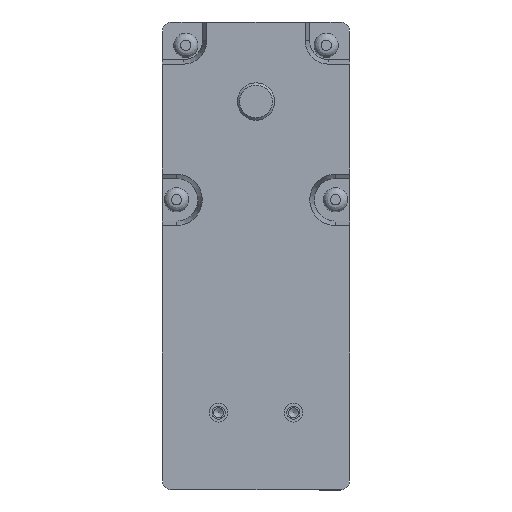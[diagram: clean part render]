
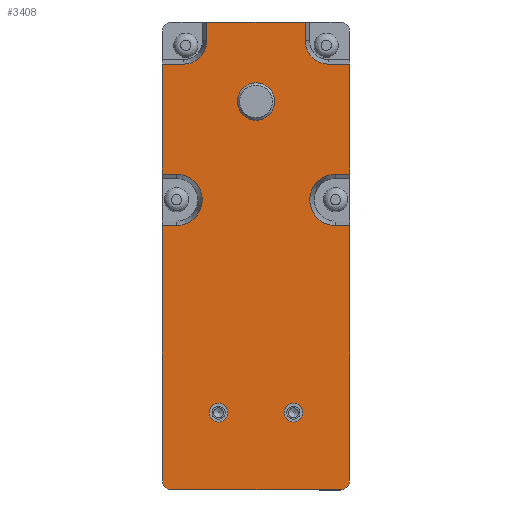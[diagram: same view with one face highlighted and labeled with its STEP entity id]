
A CAD part, top view. The second image highlights one B-rep face of the part: STEP entity #3408.
In plain terms, the highlighted planar face has unit normal (0, 0, 1) as drawn and (0, 1, 0) by its records, which use the part's own axes.
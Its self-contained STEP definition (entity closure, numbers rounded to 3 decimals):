
#73=FACE_BOUND('',#654,.T.);
#74=FACE_BOUND('',#655,.T.);
#75=FACE_BOUND('',#656,.T.);
#152=PLANE('',#3818);
#413=FACE_OUTER_BOUND('',#653,.T.);
#653=EDGE_LOOP('',(#2733,#2734,#2735,#2736,#2737,#2738,#2739,#2740,#2741,
#2742,#2743,#2744,#2745,#2746,#2747,#2748,#2749,#2750,#2751,#2752));
#654=EDGE_LOOP('',(#2753));
#655=EDGE_LOOP('',(#2754));
#656=EDGE_LOOP('',(#2755));
#836=LINE('',#5230,#1120);
#840=LINE('',#5237,#1124);
#848=LINE('',#5258,#1132);
#855=LINE('',#5277,#1139);
#856=LINE('',#5279,#1140);
#860=LINE('',#5289,#1144);
#862=LINE('',#5297,#1146);
#870=LINE('',#5389,#1154);
#871=LINE('',#5392,#1155);
#876=LINE('',#5404,#1160);
#881=LINE('',#5417,#1165);
#901=LINE('',#5578,#1185);
#902=LINE('',#5579,#1186);
#906=LINE('',#5609,#1190);
#1120=VECTOR('',#4161,10.);
#1124=VECTOR('',#4165,10.);
#1132=VECTOR('',#4185,10.);
#1139=VECTOR('',#4204,10.);
#1140=VECTOR('',#4207,10.);
#1144=VECTOR('',#4217,10.);
#1146=VECTOR('',#4227,10.);
#1154=VECTOR('',#4269,10.);
#1155=VECTOR('',#4272,10.);
#1160=VECTOR('',#4283,10.);
#1165=VECTOR('',#4296,10.);
#1185=VECTOR('',#4418,10.);
#1186=VECTOR('',#4419,10.);
#1190=VECTOR('',#4455,10.);
#1396=CIRCLE('',#3674,2.);
#1400=CIRCLE('',#3686,5.5);
#1403=CIRCLE('',#3694,5.);
#1414=CIRCLE('',#3711,5.5);
#1417=CIRCLE('',#3719,5.);
#1431=CIRCLE('',#3743,4.);
#1439=CIRCLE('',#3757,2.);
#1443=CIRCLE('',#3764,2.);
#1455=CIRCLE('',#3790,2.);
#1591=VERTEX_POINT('',#5213);
#1592=VERTEX_POINT('',#5215);
#1596=VERTEX_POINT('',#5227);
#1597=VERTEX_POINT('',#5229);
#1600=VERTEX_POINT('',#5235);
#1606=VERTEX_POINT('',#5255);
#1607=VERTEX_POINT('',#5257);
#1611=VERTEX_POINT('',#5268);
#1612=VERTEX_POINT('',#5270);
#1615=VERTEX_POINT('',#5285);
#1617=VERTEX_POINT('',#5291);
#1627=VERTEX_POINT('',#5377);
#1628=VERTEX_POINT('',#5379);
#1631=VERTEX_POINT('',#5387);
#1632=VERTEX_POINT('',#5391);
#1636=VERTEX_POINT('',#5402);
#1638=VERTEX_POINT('',#5408);
#1640=VERTEX_POINT('',#5415);
#1655=VERTEX_POINT('',#5520);
#1662=VERTEX_POINT('',#5544);
#1666=VERTEX_POINT('',#5557);
#1670=VERTEX_POINT('',#5576);
#1680=VERTEX_POINT('',#5608);
#1908=EDGE_CURVE('',#1591,#1592,#1396,.T.);
#1915=EDGE_CURVE('',#1596,#1597,#836,.T.);
#1919=EDGE_CURVE('',#1600,#1591,#840,.T.);
#1929=EDGE_CURVE('',#1606,#1607,#848,.T.);
#1935=EDGE_CURVE('',#1612,#1611,#1400,.T.);
#1939=EDGE_CURVE('',#1611,#1597,#855,.T.);
#1940=EDGE_CURVE('',#1600,#1612,#856,.T.);
#1945=EDGE_CURVE('',#1615,#1607,#860,.T.);
#1946=EDGE_CURVE('',#1617,#1615,#1403,.T.);
#1949=EDGE_CURVE('',#1596,#1617,#862,.T.);
#1963=EDGE_CURVE('',#1628,#1627,#1414,.T.);
#1968=EDGE_CURVE('',#1627,#1631,#870,.T.);
#1969=EDGE_CURVE('',#1632,#1628,#871,.T.);
#1975=EDGE_CURVE('',#1606,#1636,#876,.T.);
#1978=EDGE_CURVE('',#1636,#1638,#1417,.T.);
#1982=EDGE_CURVE('',#1638,#1640,#881,.T.);
#2004=EDGE_CURVE('',#1655,#1655,#1431,.T.);
#2015=EDGE_CURVE('',#1662,#1662,#1439,.T.);
#2021=EDGE_CURVE('',#1666,#1666,#1443,.T.);
#2031=EDGE_CURVE('',#1670,#1631,#901,.T.);
#2032=EDGE_CURVE('',#1632,#1640,#902,.T.);
#2045=EDGE_CURVE('',#1592,#1680,#906,.T.);
#2047=EDGE_CURVE('',#1680,#1670,#1455,.T.);
#2733=ORIENTED_EDGE('',*,*,#1939,.T.);
#2734=ORIENTED_EDGE('',*,*,#1915,.F.);
#2735=ORIENTED_EDGE('',*,*,#1949,.T.);
#2736=ORIENTED_EDGE('',*,*,#1946,.T.);
#2737=ORIENTED_EDGE('',*,*,#1945,.T.);
#2738=ORIENTED_EDGE('',*,*,#1929,.F.);
#2739=ORIENTED_EDGE('',*,*,#1975,.T.);
#2740=ORIENTED_EDGE('',*,*,#1978,.T.);
#2741=ORIENTED_EDGE('',*,*,#1982,.T.);
#2742=ORIENTED_EDGE('',*,*,#2032,.F.);
#2743=ORIENTED_EDGE('',*,*,#1969,.T.);
#2744=ORIENTED_EDGE('',*,*,#1963,.T.);
#2745=ORIENTED_EDGE('',*,*,#1968,.T.);
#2746=ORIENTED_EDGE('',*,*,#2031,.F.);
#2747=ORIENTED_EDGE('',*,*,#2047,.F.);
#2748=ORIENTED_EDGE('',*,*,#2045,.F.);
#2749=ORIENTED_EDGE('',*,*,#1908,.F.);
#2750=ORIENTED_EDGE('',*,*,#1919,.F.);
#2751=ORIENTED_EDGE('',*,*,#1940,.T.);
#2752=ORIENTED_EDGE('',*,*,#1935,.T.);
#2753=ORIENTED_EDGE('',*,*,#2004,.T.);
#2754=ORIENTED_EDGE('',*,*,#2015,.T.);
#2755=ORIENTED_EDGE('',*,*,#2021,.T.);
#3408=ADVANCED_FACE('',(#413,#73,#74,#75),#152,.T.);
#3674=AXIS2_PLACEMENT_3D('',#5216,#4149,#4150);
#3686=AXIS2_PLACEMENT_3D('',#5271,#4196,#4197);
#3694=AXIS2_PLACEMENT_3D('',#5292,#4220,#4221);
#3711=AXIS2_PLACEMENT_3D('',#5380,#4260,#4261);
#3719=AXIS2_PLACEMENT_3D('',#5410,#4288,#4289);
#3743=AXIS2_PLACEMENT_3D('',#5521,#4346,#4347);
#3757=AXIS2_PLACEMENT_3D('',#5545,#4377,#4378);
#3764=AXIS2_PLACEMENT_3D('',#5558,#4393,#4394);
#3790=AXIS2_PLACEMENT_3D('',#5612,#4459,#4460);
#3818=AXIS2_PLACEMENT_3D('',#5666,#4528,#4529);
#4149=DIRECTION('center_axis',(0.,-1.,0.));
#4150=DIRECTION('ref_axis',(-0.707,0.,-0.707));
#4161=DIRECTION('',(0.,0.,-1.));
#4165=DIRECTION('',(0.,0.,-1.));
#4185=DIRECTION('',(-1.,0.,0.));
#4196=DIRECTION('center_axis',(0.,-1.,0.));
#4197=DIRECTION('ref_axis',(-1.,0.,0.));
#4204=DIRECTION('',(-1.,0.,0.));
#4207=DIRECTION('',(1.,0.,0.));
#4217=DIRECTION('',(0.,0.,1.));
#4220=DIRECTION('center_axis',(0.,-1.,0.));
#4221=DIRECTION('ref_axis',(1.,0.,0.));
#4227=DIRECTION('',(1.,0.,0.));
#4260=DIRECTION('center_axis',(0.,-1.,0.));
#4261=DIRECTION('ref_axis',(-1.,0.,0.));
#4269=DIRECTION('',(1.,0.,0.));
#4272=DIRECTION('',(-1.,0.,0.));
#4283=DIRECTION('',(0.,0.,-1.));
#4288=DIRECTION('center_axis',(0.,-1.,0.));
#4289=DIRECTION('ref_axis',(0.,0.,-1.));
#4296=DIRECTION('',(1.,0.,0.));
#4346=DIRECTION('center_axis',(0.,-1.,0.));
#4347=DIRECTION('ref_axis',(0.,0.,1.));
#4377=DIRECTION('center_axis',(0.,-1.,0.));
#4378=DIRECTION('ref_axis',(1.,0.,0.));
#4393=DIRECTION('center_axis',(0.,-1.,0.));
#4394=DIRECTION('ref_axis',(1.,0.,0.));
#4418=DIRECTION('',(0.,0.,1.));
#4419=DIRECTION('',(0.,0.,1.));
#4455=DIRECTION('',(1.,0.,0.));
#4459=DIRECTION('center_axis',(0.,-1.,0.));
#4460=DIRECTION('ref_axis',(0.707,0.,-0.707));
#4528=DIRECTION('center_axis',(0.,1.,0.));
#4529=DIRECTION('ref_axis',(0.,0.,1.));
#5213=CARTESIAN_POINT('',(-20.,19.,-81.));
#5215=CARTESIAN_POINT('',(-18.,19.,-83.));
#5216=CARTESIAN_POINT('Origin',(-18.,19.,-81.));
#5227=CARTESIAN_POINT('',(-20.,19.,8.));
#5229=CARTESIAN_POINT('',(-20.,19.,-15.5));
#5230=CARTESIAN_POINT('',(-20.,19.,-83.));
#5235=CARTESIAN_POINT('',(-20.,19.,-26.5));
#5237=CARTESIAN_POINT('',(-20.,19.,-83.));
#5255=CARTESIAN_POINT('',(10.5,19.,17.));
#5257=CARTESIAN_POINT('',(-10.5,19.,17.));
#5258=CARTESIAN_POINT('',(-20.,19.,17.));
#5268=CARTESIAN_POINT('',(-17.,19.,-15.5));
#5270=CARTESIAN_POINT('',(-17.,19.,-26.5));
#5271=CARTESIAN_POINT('Origin',(-17.,19.,-21.));
#5277=CARTESIAN_POINT('',(-10.,19.,-15.5));
#5279=CARTESIAN_POINT('',(-8.5,19.,-26.5));
#5285=CARTESIAN_POINT('',(-10.5,19.,13.));
#5289=CARTESIAN_POINT('',(-10.5,19.,-8.));
#5291=CARTESIAN_POINT('',(-15.5,19.,8.));
#5292=CARTESIAN_POINT('Origin',(-15.5,19.,13.));
#5297=CARTESIAN_POINT('',(-7.75,19.,8.));
#5377=CARTESIAN_POINT('',(17.,19.,-26.5));
#5379=CARTESIAN_POINT('',(17.,19.,-15.5));
#5380=CARTESIAN_POINT('Origin',(17.,19.,-21.));
#5387=CARTESIAN_POINT('',(20.,19.,-26.5));
#5389=CARTESIAN_POINT('',(10.,19.,-26.5));
#5391=CARTESIAN_POINT('',(20.,19.,-15.5));
#5392=CARTESIAN_POINT('',(8.5,19.,-15.5));
#5402=CARTESIAN_POINT('',(10.5,19.,13.));
#5404=CARTESIAN_POINT('',(10.5,19.,-10.));
#5408=CARTESIAN_POINT('',(15.5,19.,8.));
#5410=CARTESIAN_POINT('Origin',(15.5,19.,13.));
#5415=CARTESIAN_POINT('',(20.,19.,8.));
#5417=CARTESIAN_POINT('',(10.,19.,8.));
#5520=CARTESIAN_POINT('',(0.,19.,-4.));
#5521=CARTESIAN_POINT('Origin',(0.,19.,0.));
#5544=CARTESIAN_POINT('',(6.,19.,-66.5));
#5545=CARTESIAN_POINT('Origin',(8.,19.,-66.5));
#5557=CARTESIAN_POINT('',(-10.,19.,-66.5));
#5558=CARTESIAN_POINT('Origin',(-8.,19.,-66.5));
#5576=CARTESIAN_POINT('',(20.,19.,-81.));
#5578=CARTESIAN_POINT('',(20.,19.,17.));
#5579=CARTESIAN_POINT('',(20.,19.,17.));
#5608=CARTESIAN_POINT('',(18.,19.,-83.));
#5609=CARTESIAN_POINT('',(20.,19.,-83.));
#5612=CARTESIAN_POINT('Origin',(18.,19.,-81.));
#5666=CARTESIAN_POINT('Origin',(0.,19.,-33.));
